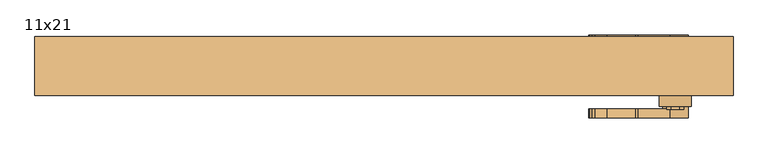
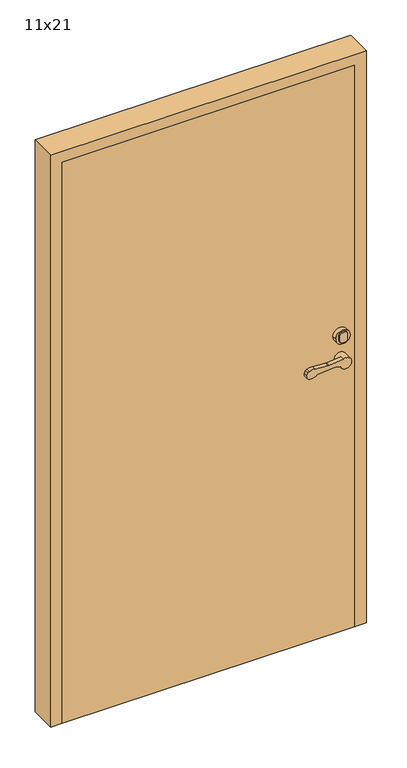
"""IFC4 building model written with IfcOpenShell, lengths in millimetres: door geometry, FPS Bangstad : 11x21."""

from ifc_helpers import new_model, si_unit, frame, origin, origin_with_axes, place, context, project, spatial, polyline, circle_curve, outline, extrude, faceted_brep, source, transform, mapped, element, save
from ifc_brep_helpers import plane_surface, cylinder_surface, revolved_surface, advanced_brep


def door_11x21_32893f3e(model_context):
    return source(origin(), model_context, "Body", "SolidModel", [
        advanced_brep(
        [(466.5814974, -154.973232, 997.7701387), (481.004483, -154.973232, 991.2729519), (519.0, -154.973232, 1000.0), (489.8891463, -154.973232, 1017.8042788), (441.3094903, -154.973232, 1012.9128632), (436.2405827, -154.973232, 1012.8329847), (391.5166845, -154.973232, 1015.9164674), (372.9379339, -154.973232, 1013.5335945), (368.125376, -154.973232, 1008.6149507), (364.4895652, -154.973232, 1000.5438812), (369.341903, -154.973232, 987.3918831), (398.6679779, -154.973232, 992.2785443), (461.4724333, -154.973232, 998.6022345), (441.3094903, -140.486616, 1012.9128632), (489.8891463, -140.486616, 1017.8042788), (479.0, -140.486616, 1000.0), (481.004483, -140.486616, 991.2729519), (466.5814974, -140.486616, 997.7701387), (461.4724333, -140.486616, 998.6022345), (398.6679779, -140.486616, 992.2785443), (369.341903, -140.486616, 987.3918831), (364.4895652, -140.486616, 1000.5438812), (368.125376, -140.486616, 1008.6149507), (372.9379339, -140.486616, 1013.5335945), (391.5166845, -140.486616, 1015.9164674), (436.2405827, -140.486616, 1012.8329847), (519.0, -119.973232, 1000.0), (479.0, -119.973232, 1000.0)],
        [
            (0, 1),
            (1, 2, circle_curve(frame((499.0, -154.973232, 1000.0), z_axis=(0.0, -1.0, 0.0), x_axis=(-1.0, 0.0, 0.0)), 20.0)),
            (2, 3, circle_curve(frame((499.0, -154.973232, 1000.0), z_axis=(0.0, -1.0, 0.0), x_axis=(-1.0, 0.0, 0.0)), 20.0)),
            (3, 4),
            (4, 5, circle_curve(frame((438.30403, -154.973232, 1042.761937), z_axis=(0.0, 1.0, 0.0), x_axis=(-0.9949691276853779, 0.0, -0.10018200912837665)), 30.0)),
            (5, 6),
            (6, 7, circle_curve(frame((385.8530466, -154.973232, 986.455931), z_axis=(0.0, -1.0, 0.0), x_axis=(-0.9949691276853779, 0.0, -0.10018200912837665)), 30.0)),
            (7, 8, circle_curve(frame((377.2429714, -154.973232, 1004.5077067), z_axis=(0.0, -1.0, 0.0), x_axis=(-0.9949691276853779, 0.0, -0.10018200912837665)), 10.0)),
            (8, 9),
            (9, 10, circle_curve(frame((373.6071607, -154.973232, 996.4366372), z_axis=(0.0, -1.0, 0.0), x_axis=(-0.9949691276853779, 0.0, -0.10018200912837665)), 10.0)),
            (10, 11, circle_curve(frame((380.4773313, -154.973232, 1011.0052772), z_axis=(0.0, -1.0, 0.0), x_axis=(-0.9949691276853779, 0.0, -0.10018200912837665)), 26.1072815)),
            (11, 12),
            (12, 0, circle_curve(frame((462.4742534, -154.973232, 988.6525432), z_axis=(0.0, 1.0, 0.0), x_axis=(-0.9949691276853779, 0.0, -0.10018200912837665)), 10.0)),
            (13, 14),
            (14, 15, circle_curve(frame((499.0, -140.486616, 1000.0), z_axis=(0.0, -1.0, 0.0), x_axis=(-1.0, 0.0, 0.0)), 20.0)),
            (15, 16, circle_curve(frame((499.0, -140.486616, 1000.0), z_axis=(0.0, -1.0, 0.0), x_axis=(-1.0, 0.0, 0.0)), 20.0)),
            (16, 17),
            (17, 18, circle_curve(frame((462.4742534, -140.486616, 988.6525432), z_axis=(0.0, -1.0, 0.0), x_axis=(-0.9949691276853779, 0.0, -0.10018200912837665)), 10.0)),
            (18, 19),
            (19, 20, circle_curve(frame((380.4773313, -140.486616, 1011.0052772), z_axis=(0.0, 1.0, 0.0), x_axis=(-0.9949691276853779, 0.0, -0.10018200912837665)), 26.1072815)),
            (20, 21, circle_curve(frame((373.6071607, -140.486616, 996.4366372), z_axis=(0.0, 1.0, 0.0), x_axis=(-0.9949691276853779, 0.0, -0.10018200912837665)), 10.0)),
            (21, 22),
            (22, 23, circle_curve(frame((377.2429714, -140.486616, 1004.5077067), z_axis=(0.0, 1.0, 0.0), x_axis=(-0.9949691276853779, 0.0, -0.10018200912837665)), 10.0)),
            (23, 24, circle_curve(frame((385.8530466, -140.486616, 986.455931), z_axis=(0.0, 1.0, 0.0), x_axis=(-0.9949691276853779, 0.0, -0.10018200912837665)), 30.0)),
            (24, 25),
            (25, 13, circle_curve(frame((438.30403, -140.486616, 1042.761937), z_axis=(0.0, -1.0, 0.0), x_axis=(-0.9949691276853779, 0.0, -0.10018200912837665)), 30.0)),
            (3, 14),
            (13, 4),
            (16, 1),
            (0, 17),
            (12, 18),
            (11, 19),
            (10, 20),
            (9, 21),
            (8, 22),
            (7, 23),
            (6, 24),
            (5, 25),
            (26, 27, circle_curve(frame((499.0, -119.973232, 1000.0), z_axis=(0.0, 1.0, 0.0), x_axis=(-1.0, 0.0, 0.0)), 20.0)),
            (27, 26, circle_curve(frame((499.0, -119.973232, 1000.0), z_axis=(0.0, 1.0, 0.0), x_axis=(-1.0, 0.0, 0.0)), 20.0)),
            (26, 2),
            (15, 27),
        ],
        [
            plane_surface(frame((490.3164257, -154.973232, 1017.847301), z_axis=(0.0, -1.0000000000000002, 0.0), x_axis=(0.9949691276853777, 0.0, 0.10018200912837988))),
            plane_surface(frame((490.3164257, -140.486616, 1017.847301), z_axis=(0.0, 1.0000000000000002, 0.0), x_axis=(-0.9949691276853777, 0.0, -0.10018200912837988))),
            plane_surface(frame((441.3094903, -154.973232, 1012.9128632), z_axis=(-0.10018200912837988, 0.0, 0.9949691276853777), x_axis=(0.0, 1.0, 0.0))),
            plane_surface(frame((499.5891035, -154.973232, 982.9010548), z_axis=(-0.41072439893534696, 0.0, -0.91175954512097), x_axis=(0.0, 1.0, 0.0))),
            revolved_surface(polyline([(452.5245621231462, -140.486616, 987.6507231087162), (452.5245621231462, -154.973232, 987.6507231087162)]), (462.4742534, -140.486616, 988.6525432), (0.0, 1.0, 0.0)),
            plane_surface(frame((461.4724333, -154.973232, 998.6022345), z_axis=(0.10018200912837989, 0.0, -0.9949691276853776), x_axis=(0.0, 1.0, 0.0))),
            cylinder_surface(frame((380.4773313, -140.486616, 1011.0052772), z_axis=(0.0, -1.0, 0.0), x_axis=(-0.9949691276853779, 0.0, -0.10018200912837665)), 26.1072815),
            cylinder_surface(frame((373.6071607, -140.486616, 996.4366372), z_axis=(0.0, -1.0, 0.0), x_axis=(-0.9949691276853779, 0.0, -0.10018200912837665)), 10.0),
            plane_surface(frame((364.4895652, -154.973232, 1000.5438812), z_axis=(-0.9117595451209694, 0.0, 0.41072439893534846), x_axis=(0.0, 1.0, 0.0))),
            cylinder_surface(frame((377.2429714, -140.486616, 1004.5077067), z_axis=(0.0, -1.0, 0.0), x_axis=(-0.9949691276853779, 0.0, -0.10018200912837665)), 10.0),
            cylinder_surface(frame((385.8530466, -140.486616, 986.455931), z_axis=(0.0, -1.0, 0.0), x_axis=(-0.9949691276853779, 0.0, -0.10018200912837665)), 30.0),
            plane_surface(frame((391.5166845, -154.973232, 1015.9164674), z_axis=(0.06878157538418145, 0.0, 0.9976317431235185), x_axis=(0.0, 1.0, 0.0))),
            revolved_surface(polyline([(408.4549561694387, -140.486616, 1039.7564767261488), (408.4549561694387, -154.973232, 1039.7564767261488)]), (438.30403, -140.486616, 1042.761937), (0.0, 1.0, 0.0)),
            plane_surface(frame((479.0, -119.973232, 1000.0), z_axis=(0.0, 1.0, 0.0), x_axis=(0.0, 0.0, -1.0))),
            cylinder_surface(frame((499.0, -119.973232, 1000.0), z_axis=(0.0, -1.0, 0.0), x_axis=(-1.0, 0.0, 0.0)), 20.0),
        ],
        [
            (0, [[1, 2, 3, 4, 5, 6, 7, 8, 9, 10, 11, 12, 13]]),
            (1, [[14, 15, 16, 17, 18, 19, 20, 21, 22, 23, 24, 25, 26]]),
            (2, [[-4, 27, -14, 28]]),
            (3, [[-17, 29, -1, 30]]),
            (4, [[31, -18, -30, -13]]),
            (5, [[32, -19, -31, -12]]),
            (6, [[33, -20, -32, -11]]),
            (7, [[34, -21, -33, -10]]),
            (8, [[35, -22, -34, -9]]),
            (9, [[36, -23, -35, -8]]),
            (10, [[37, -24, -36, -7]]),
            (11, [[38, -25, -37, -6]]),
            (12, [[-28, -26, -38, -5]]),
            (13, [[39, 40]]),
            (14, [[41, -2, -29, -16, 42, -39]]),
            (14, [[-42, -15, -27, -3, -41, -40]]),
        ],
    ),
        advanced_brep(
        [(524.0, -136.932999, 1085.0), (474.0, -136.932999, 1085.0), (511.797635, -136.932999, 1096.6951736), (511.797635, -136.932999, 1076.3309113), (505.3598612, -136.932999, 1068.4849283), (491.7234976, -136.932999, 1068.9331955), (485.7976351, -136.932999, 1076.6596406), (485.797635, -136.932999, 1096.448688), (491.7874865, -136.932999, 1104.1920273), (505.4238501, -136.932999, 1104.5281439), (524.0, -119.973232, 1085.0), (474.0, -119.973232, 1085.0), (505.4238501, -141.932999, 1104.5281439), (491.7874865, -141.932999, 1104.1920273), (485.797635, -141.932999, 1096.448688), (485.7976351, -141.932999, 1076.6596406), (491.7234976, -141.932999, 1068.9331955), (505.3598612, -141.932999, 1068.4849283), (511.797635, -141.932999, 1076.3309113), (511.797635, -141.932999, 1096.6951736)],
        [
            (0, 1, circle_curve(frame((499.0, -136.932999, 1085.0), z_axis=(0.0, -1.0, 0.0), x_axis=(-1.0, 0.0, 0.0)), 25.0)),
            (1, 0, circle_curve(frame((499.0, -136.932999, 1085.0), z_axis=(0.0, -1.0, 0.0), x_axis=(-1.0, 0.0, 0.0)), 25.0)),
            (2, 3),
            (3, 4, circle_curve(frame((503.797635, -136.932999, 1076.3309113), z_axis=(0.0, 1.0, 0.0), x_axis=(-1.0, 0.0, 0.0)), 8.0)),
            (4, 5, circle_curve(frame((499.5015131, -136.932999, 1097.9073646), z_axis=(0.0, 1.0, 0.0), x_axis=(-1.0, 0.0, 0.0)), 30.0)),
            (5, 6, circle_curve(frame((493.7976351, -136.932999, 1076.6596406), z_axis=(0.0, 1.0, 0.0), x_axis=(-1.0, 0.0, 0.0)), 8.0)),
            (6, 7),
            (7, 8, circle_curve(frame((493.797635, -136.932999, 1096.448688), z_axis=(0.0, 1.0, 0.0), x_axis=(-1.0, 0.0, 0.0)), 8.0)),
            (8, 9, circle_curve(frame((499.3255436, -136.932999, 1075.1545051), z_axis=(0.0, 1.0, 0.0), x_axis=(-1.0, 0.0, 0.0)), 30.0)),
            (9, 2, circle_curve(frame((503.797635, -136.932999, 1096.6951736), z_axis=(0.0, 1.0, 0.0), x_axis=(-1.0, 0.0, 0.0)), 8.0)),
            (10, 11, circle_curve(frame((499.0, -119.973232, 1085.0), z_axis=(0.0, 1.0, 0.0), x_axis=(-1.0, 0.0, 0.0)), 25.0)),
            (11, 10, circle_curve(frame((499.0, -119.973232, 1085.0), z_axis=(0.0, 1.0, 0.0), x_axis=(-1.0, 0.0, 0.0)), 25.0)),
            (1, 11),
            (10, 0),
            (12, 13, circle_curve(frame((499.3255436, -141.932999, 1075.1545051), z_axis=(0.0, -1.0, 0.0), x_axis=(-1.0, 0.0, 0.0)), 30.0)),
            (13, 14, circle_curve(frame((493.797635, -141.932999, 1096.448688), z_axis=(0.0, -1.0, 0.0), x_axis=(-1.0, 0.0, 0.0)), 8.0)),
            (14, 15),
            (15, 16, circle_curve(frame((493.7976351, -141.932999, 1076.6596406), z_axis=(0.0, -1.0, 0.0), x_axis=(-1.0, 0.0, 0.0)), 8.0)),
            (16, 17, circle_curve(frame((499.5015131, -141.932999, 1097.9073646), z_axis=(0.0, -1.0, 0.0), x_axis=(-1.0, 0.0, 0.0)), 30.0)),
            (17, 18, circle_curve(frame((503.797635, -141.932999, 1076.3309113), z_axis=(0.0, -1.0, 0.0), x_axis=(-1.0, 0.0, 0.0)), 8.0)),
            (18, 19),
            (19, 12, circle_curve(frame((503.797635, -141.932999, 1096.6951736), z_axis=(0.0, -1.0, 0.0), x_axis=(-1.0, 0.0, 0.0)), 8.0)),
            (19, 2),
            (9, 12),
            (18, 3),
            (17, 4),
            (16, 5),
            (15, 6),
            (14, 7),
            (13, 8),
        ],
        [
            plane_surface(frame((474.0, -136.932999, 1085.0), z_axis=(0.0, -1.0, 0.0), x_axis=(0.0, 0.0, 1.0))),
            plane_surface(frame((474.0, -119.973232, 1085.0), z_axis=(0.0, 1.0, 0.0), x_axis=(0.0, 0.0, -1.0))),
            cylinder_surface(frame((499.0, -119.973232, 1085.0), z_axis=(0.0, -1.0, 0.0), x_axis=(-1.0, 0.0, 0.0)), 25.0),
            plane_surface(frame((495.797635, -141.932999, 1096.6951736), z_axis=(0.0, -1.0, 0.0), x_axis=(0.0, 0.0, 1.0))),
            cylinder_surface(frame((503.797635, -136.932999, 1096.6951736), z_axis=(0.0, -1.0, 0.0), x_axis=(-1.0, 0.0, 0.0)), 8.0),
            plane_surface(frame((511.797635, -141.932999, 1096.6951736), z_axis=(1.0, 0.0, 0.0), x_axis=(0.0, 1.0, 0.0))),
            cylinder_surface(frame((503.797635, -136.932999, 1076.3309113), z_axis=(0.0, -1.0, 0.0), x_axis=(-1.0, 0.0, 0.0)), 8.0),
            cylinder_surface(frame((499.5015131, -136.932999, 1097.9073646), z_axis=(0.0, -1.0, 0.0), x_axis=(-1.0, 0.0, 0.0)), 30.0),
            cylinder_surface(frame((493.7976351, -136.932999, 1076.6596406), z_axis=(0.0, -1.0, 0.0), x_axis=(-1.0, 0.0, 0.0)), 8.0),
            plane_surface(frame((485.7976351, -141.932999, 1076.6596406), z_axis=(-1.0, 0.0, -2.725747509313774e-09), x_axis=(0.0, 1.0, 0.0))),
            cylinder_surface(frame((493.797635, -136.932999, 1096.448688), z_axis=(0.0, -1.0, 0.0), x_axis=(-1.0, 0.0, 0.0)), 8.0),
            cylinder_surface(frame((499.3255436, -136.932999, 1075.1545051), z_axis=(0.0, -1.0, 0.0), x_axis=(-1.0, 0.0, 0.0)), 30.0),
        ],
        [
            (0, [[1, 2], [3, 4, 5, 6, 7, 8, 9, 10]]),
            (1, [[11, 12]]),
            (2, [[13, -11, 14, -2]]),
            (2, [[-14, -12, -13, -1]]),
            (3, [[15, 16, 17, 18, 19, 20, 21, 22]]),
            (4, [[23, -10, 24, -22]]),
            (5, [[25, -3, -23, -21]]),
            (6, [[26, -4, -25, -20]]),
            (7, [[27, -5, -26, -19]]),
            (8, [[28, -6, -27, -18]]),
            (9, [[29, -7, -28, -17]]),
            (10, [[30, -8, -29, -16]]),
            (11, [[-24, -9, -30, -15]]),
        ],
    ),
        advanced_brep(
        [(466.5814974, -25.0, 997.7701387), (461.4724333, -25.0, 998.6022345), (398.6679779, -25.0, 992.2785443), (369.341903, -25.0, 987.3918831), (364.4895652, -25.0, 1000.5438812), (368.125376, -25.0, 1008.6149507), (372.9379339, -25.0, 1013.5335945), (391.5166845, -25.0, 1015.9164674), (436.2405827, -25.0, 1012.8329847), (441.3094903, -25.0, 1012.9128632), (489.8891463, -25.0, 1017.8042788), (519.0, -25.0, 1000.0), (481.004483, -25.0, 991.2729519), (441.3094903, -39.486616, 1012.9128632), (436.2405827, -39.486616, 1012.8329847), (391.5166845, -39.486616, 1015.9164674), (372.9379339, -39.486616, 1013.5335945), (368.125376, -39.486616, 1008.6149507), (364.4895652, -39.486616, 1000.5438812), (369.341903, -39.486616, 987.3918831), (398.6679779, -39.486616, 992.2785443), (461.4724333, -39.486616, 998.6022345), (466.5814974, -39.486616, 997.7701387), (481.004483, -39.486616, 991.2729519), (479.0, -39.486616, 1000.0), (489.8891463, -39.486616, 1017.8042788), (519.0, -60.0, 1000.0), (479.0, -60.0, 1000.0)],
        [
            (0, 1, circle_curve(frame((462.4742534, -25.0, 988.6525432), z_axis=(0.0, -1.0, 0.0), x_axis=(-0.9949691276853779, 0.0, -0.10018200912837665)), 10.0)),
            (1, 2),
            (2, 3, circle_curve(frame((380.4773313, -25.0, 1011.0052772), z_axis=(0.0, 1.0, 0.0), x_axis=(-0.9949691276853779, 0.0, -0.10018200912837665)), 26.1072815)),
            (3, 4, circle_curve(frame((373.6071607, -25.0, 996.4366372), z_axis=(0.0, 1.0, 0.0), x_axis=(-0.9949691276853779, 0.0, -0.10018200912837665)), 10.0)),
            (4, 5),
            (5, 6, circle_curve(frame((377.2429714, -25.0, 1004.5077067), z_axis=(0.0, 1.0, 0.0), x_axis=(-0.9949691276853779, 0.0, -0.10018200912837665)), 10.0)),
            (6, 7, circle_curve(frame((385.8530466, -25.0, 986.455931), z_axis=(0.0, 1.0, 0.0), x_axis=(-0.9949691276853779, 0.0, -0.10018200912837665)), 30.0)),
            (7, 8),
            (8, 9, circle_curve(frame((438.30403, -25.0, 1042.761937), z_axis=(0.0, -1.0, 0.0), x_axis=(-0.9949691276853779, 0.0, -0.10018200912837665)), 30.0)),
            (9, 10),
            (10, 11, circle_curve(frame((499.0, -25.0, 1000.0), z_axis=(0.0, 1.0, 0.0), x_axis=(-1.0, 0.0, 0.0)), 20.0)),
            (11, 12, circle_curve(frame((499.0, -25.0, 1000.0), z_axis=(0.0, 1.0, 0.0), x_axis=(-1.0, 0.0, 0.0)), 20.0)),
            (12, 0),
            (13, 14, circle_curve(frame((438.30403, -39.486616, 1042.761937), z_axis=(0.0, 1.0, 0.0), x_axis=(-0.9949691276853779, 0.0, -0.10018200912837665)), 30.0)),
            (14, 15),
            (15, 16, circle_curve(frame((385.8530466, -39.486616, 986.455931), z_axis=(0.0, -1.0, 0.0), x_axis=(-0.9949691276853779, 0.0, -0.10018200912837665)), 30.0)),
            (16, 17, circle_curve(frame((377.2429714, -39.486616, 1004.5077067), z_axis=(0.0, -1.0, 0.0), x_axis=(-0.9949691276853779, 0.0, -0.10018200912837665)), 10.0)),
            (17, 18),
            (18, 19, circle_curve(frame((373.6071607, -39.486616, 996.4366372), z_axis=(0.0, -1.0, 0.0), x_axis=(-0.9949691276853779, 0.0, -0.10018200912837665)), 10.0)),
            (19, 20, circle_curve(frame((380.4773313, -39.486616, 1011.0052772), z_axis=(0.0, -1.0, 0.0), x_axis=(-0.9949691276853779, 0.0, -0.10018200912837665)), 26.1072815)),
            (20, 21),
            (21, 22, circle_curve(frame((462.4742534, -39.486616, 988.6525432), z_axis=(0.0, 1.0, 0.0), x_axis=(-0.9949691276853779, 0.0, -0.10018200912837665)), 10.0)),
            (22, 23),
            (23, 24, circle_curve(frame((499.0, -39.486616, 1000.0), z_axis=(0.0, 1.0, 0.0), x_axis=(-1.0, 0.0, 0.0)), 20.0)),
            (24, 25, circle_curve(frame((499.0, -39.486616, 1000.0), z_axis=(0.0, 1.0, 0.0), x_axis=(-1.0, 0.0, 0.0)), 20.0)),
            (25, 13),
            (9, 13),
            (25, 10),
            (22, 0),
            (12, 23),
            (21, 1),
            (20, 2),
            (19, 3),
            (18, 4),
            (17, 5),
            (16, 6),
            (15, 7),
            (14, 8),
            (26, 27, circle_curve(frame((499.0, -60.0, 1000.0), z_axis=(0.0, -1.0, 0.0), x_axis=(-1.0, 0.0, 0.0)), 20.0)),
            (27, 26, circle_curve(frame((499.0, -60.0, 1000.0), z_axis=(0.0, -1.0, 0.0), x_axis=(-1.0, 0.0, 0.0)), 20.0)),
            (27, 24),
            (11, 26),
        ],
        [
            plane_surface(frame((490.3164257, -25.0, 1017.847301), z_axis=(0.0, 1.0000000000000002, 0.0), x_axis=(0.9949691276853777, 0.0, 0.10018200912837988))),
            plane_surface(frame((490.3164257, -39.486616, 1017.847301), z_axis=(0.0, -1.0000000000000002, 0.0), x_axis=(-0.9949691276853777, 0.0, -0.10018200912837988))),
            plane_surface(frame((441.3094903, -25.0, 1012.9128632), z_axis=(-0.10018200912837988, 0.0, 0.9949691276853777), x_axis=(0.0, -1.0, 0.0))),
            plane_surface(frame((499.5891035, -25.0, 982.9010548), z_axis=(-0.41072439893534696, 0.0, -0.91175954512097), x_axis=(0.0, -1.0, 0.0))),
            revolved_surface(polyline([(452.5245621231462, -39.486616, 987.6507231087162), (452.5245621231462, -25.0, 987.6507231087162)]), (462.4742534, -39.486616, 988.6525432), (0.0, -1.0, 0.0)),
            plane_surface(frame((461.4724333, -25.0, 998.6022345), z_axis=(0.10018200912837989, 0.0, -0.9949691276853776), x_axis=(0.0, -1.0, 0.0))),
            cylinder_surface(frame((380.4773313, -39.486616, 1011.0052772), z_axis=(0.0, 1.0, 0.0), x_axis=(-0.9949691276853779, 0.0, -0.10018200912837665)), 26.1072815),
            cylinder_surface(frame((373.6071607, -39.486616, 996.4366372), z_axis=(0.0, 1.0, 0.0), x_axis=(-0.9949691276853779, 0.0, -0.10018200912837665)), 10.0),
            plane_surface(frame((364.4895652, -25.0, 1000.5438812), z_axis=(-0.9117595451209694, 0.0, 0.41072439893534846), x_axis=(0.0, -1.0, 0.0))),
            cylinder_surface(frame((377.2429714, -39.486616, 1004.5077067), z_axis=(0.0, 1.0, 0.0), x_axis=(-0.9949691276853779, 0.0, -0.10018200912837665)), 10.0),
            cylinder_surface(frame((385.8530466, -39.486616, 986.455931), z_axis=(0.0, 1.0, 0.0), x_axis=(-0.9949691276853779, 0.0, -0.10018200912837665)), 30.0),
            plane_surface(frame((391.5166845, -25.0, 1015.9164674), z_axis=(0.06878157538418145, 0.0, 0.9976317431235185), x_axis=(0.0, -1.0, 0.0))),
            revolved_surface(polyline([(408.4549561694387, -39.486616, 1039.7564767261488), (408.4549561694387, -25.0, 1039.7564767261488)]), (438.30403, -39.486616, 1042.761937), (0.0, -1.0, 0.0)),
            plane_surface(frame((479.0, -60.0, 1000.0), z_axis=(0.0, -1.0, 0.0), x_axis=(0.0, 0.0, -1.0))),
            cylinder_surface(frame((499.0, -60.0, 1000.0), z_axis=(0.0, 1.0, 0.0), x_axis=(-1.0, 0.0, 0.0)), 20.0),
        ],
        [
            (0, [[1, 2, 3, 4, 5, 6, 7, 8, 9, 10, 11, 12, 13]]),
            (1, [[14, 15, 16, 17, 18, 19, 20, 21, 22, 23, 24, 25, 26]]),
            (2, [[27, -26, 28, -10]]),
            (3, [[29, -13, 30, -23]]),
            (4, [[-1, -29, -22, 31]]),
            (5, [[-2, -31, -21, 32]]),
            (6, [[-3, -32, -20, 33]]),
            (7, [[-4, -33, -19, 34]]),
            (8, [[-5, -34, -18, 35]]),
            (9, [[-6, -35, -17, 36]]),
            (10, [[-7, -36, -16, 37]]),
            (11, [[-8, -37, -15, 38]]),
            (12, [[-9, -38, -14, -27]]),
            (13, [[39, 40]]),
            (14, [[-40, 41, -24, -30, -12, 42]]),
            (14, [[-39, -42, -11, -28, -25, -41]]),
        ],
    ),
        advanced_brep(
        [(524.0, -43.040233, 1085.0), (474.0, -43.040233, 1085.0), (511.797635, -43.040233, 1096.6951736), (505.4238501, -43.040233, 1104.5281439), (491.7874865, -43.040233, 1104.1920273), (485.797635, -43.040233, 1096.448688), (485.7976351, -43.040233, 1076.6596406), (491.7234976, -43.040233, 1068.9331955), (505.3598612, -43.040233, 1068.4849283), (511.797635, -43.040233, 1076.3309113), (524.0, -60.0, 1085.0), (474.0, -60.0, 1085.0), (505.4238501, -38.040233, 1104.5281439), (511.797635, -38.040233, 1096.6951736), (511.797635, -38.040233, 1076.3309113), (505.3598612, -38.040233, 1068.4849283), (491.7234976, -38.040233, 1068.9331955), (485.7976351, -38.040233, 1076.6596406), (485.797635, -38.040233, 1096.448688), (491.7874865, -38.040233, 1104.1920273)],
        [
            (0, 1, circle_curve(frame((499.0, -43.040233, 1085.0), z_axis=(0.0, 1.0, 0.0), x_axis=(-1.0, 0.0, 0.0)), 25.0)),
            (1, 0, circle_curve(frame((499.0, -43.040233, 1085.0), z_axis=(0.0, 1.0, 0.0), x_axis=(-1.0, 0.0, 0.0)), 25.0)),
            (2, 3, circle_curve(frame((503.797635, -43.040233, 1096.6951736), z_axis=(0.0, -1.0, 0.0), x_axis=(-1.0, 0.0, 0.0)), 8.0)),
            (3, 4, circle_curve(frame((499.3255436, -43.040233, 1075.1545051), z_axis=(0.0, -1.0, 0.0), x_axis=(-1.0, 0.0, 0.0)), 30.0)),
            (4, 5, circle_curve(frame((493.797635, -43.040233, 1096.448688), z_axis=(0.0, -1.0, 0.0), x_axis=(-1.0, 0.0, 0.0)), 8.0)),
            (5, 6),
            (6, 7, circle_curve(frame((493.7976351, -43.040233, 1076.6596406), z_axis=(0.0, -1.0, 0.0), x_axis=(-1.0, 0.0, 0.0)), 8.0)),
            (7, 8, circle_curve(frame((499.5015131, -43.040233, 1097.9073646), z_axis=(0.0, -1.0, 0.0), x_axis=(-1.0, 0.0, 0.0)), 30.0)),
            (8, 9, circle_curve(frame((503.797635, -43.040233, 1076.3309113), z_axis=(0.0, -1.0, 0.0), x_axis=(-1.0, 0.0, 0.0)), 8.0)),
            (9, 2),
            (10, 11, circle_curve(frame((499.0, -60.0, 1085.0), z_axis=(0.0, -1.0, 0.0), x_axis=(-1.0, 0.0, 0.0)), 25.0)),
            (11, 10, circle_curve(frame((499.0, -60.0, 1085.0), z_axis=(0.0, -1.0, 0.0), x_axis=(-1.0, 0.0, 0.0)), 25.0)),
            (0, 10),
            (11, 1),
            (12, 13, circle_curve(frame((503.797635, -38.040233, 1096.6951736), z_axis=(0.0, 1.0, 0.0), x_axis=(-1.0, 0.0, 0.0)), 8.0)),
            (13, 14),
            (14, 15, circle_curve(frame((503.797635, -38.040233, 1076.3309113), z_axis=(0.0, 1.0, 0.0), x_axis=(-1.0, 0.0, 0.0)), 8.0)),
            (15, 16, circle_curve(frame((499.5015131, -38.040233, 1097.9073646), z_axis=(0.0, 1.0, 0.0), x_axis=(-1.0, 0.0, 0.0)), 30.0)),
            (16, 17, circle_curve(frame((493.7976351, -38.040233, 1076.6596406), z_axis=(0.0, 1.0, 0.0), x_axis=(-1.0, 0.0, 0.0)), 8.0)),
            (17, 18),
            (18, 19, circle_curve(frame((493.797635, -38.040233, 1096.448688), z_axis=(0.0, 1.0, 0.0), x_axis=(-1.0, 0.0, 0.0)), 8.0)),
            (19, 12, circle_curve(frame((499.3255436, -38.040233, 1075.1545051), z_axis=(0.0, 1.0, 0.0), x_axis=(-1.0, 0.0, 0.0)), 30.0)),
            (12, 3),
            (2, 13),
            (9, 14),
            (8, 15),
            (7, 16),
            (6, 17),
            (5, 18),
            (4, 19),
        ],
        [
            plane_surface(frame((474.0, -43.040233, 1085.0), z_axis=(0.0, 1.0, 0.0), x_axis=(0.0, 0.0, 1.0))),
            plane_surface(frame((474.0, -60.0, 1085.0), z_axis=(0.0, -1.0, 0.0), x_axis=(0.0, 0.0, -1.0))),
            cylinder_surface(frame((499.0, -60.0, 1085.0), z_axis=(0.0, 1.0, 0.0), x_axis=(-1.0, 0.0, 0.0)), 25.0),
            plane_surface(frame((495.797635, -38.040233, 1096.6951736), z_axis=(0.0, 1.0, 0.0), x_axis=(0.0, 0.0, 1.0))),
            cylinder_surface(frame((503.797635, -43.040233, 1096.6951736), z_axis=(0.0, 1.0, 0.0), x_axis=(-1.0, 0.0, 0.0)), 8.0),
            plane_surface(frame((511.797635, -38.040233, 1096.6951736), z_axis=(1.0, 0.0, 0.0), x_axis=(0.0, -1.0, 0.0))),
            cylinder_surface(frame((503.797635, -43.040233, 1076.3309113), z_axis=(0.0, 1.0, 0.0), x_axis=(-1.0, 0.0, 0.0)), 8.0),
            cylinder_surface(frame((499.5015131, -43.040233, 1097.9073646), z_axis=(0.0, 1.0, 0.0), x_axis=(-1.0, 0.0, 0.0)), 30.0),
            cylinder_surface(frame((493.7976351, -43.040233, 1076.6596406), z_axis=(0.0, 1.0, 0.0), x_axis=(-1.0, 0.0, 0.0)), 8.0),
            plane_surface(frame((485.7976351, -38.040233, 1076.6596406), z_axis=(-1.0, 0.0, -2.725747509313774e-09), x_axis=(0.0, -1.0, 0.0))),
            cylinder_surface(frame((493.797635, -43.040233, 1096.448688), z_axis=(0.0, 1.0, 0.0), x_axis=(-1.0, 0.0, 0.0)), 8.0),
            cylinder_surface(frame((499.3255436, -43.040233, 1075.1545051), z_axis=(0.0, 1.0, 0.0), x_axis=(-1.0, 0.0, 0.0)), 30.0),
        ],
        [
            (0, [[1, 2], [3, 4, 5, 6, 7, 8, 9, 10]]),
            (1, [[11, 12]]),
            (2, [[-1, 13, -12, 14]]),
            (2, [[-2, -14, -11, -13]]),
            (3, [[15, 16, 17, 18, 19, 20, 21, 22]]),
            (4, [[-15, 23, -3, 24]]),
            (5, [[-16, -24, -10, 25]]),
            (6, [[-17, -25, -9, 26]]),
            (7, [[-18, -26, -8, 27]]),
            (8, [[-19, -27, -7, 28]]),
            (9, [[-20, -28, -6, 29]]),
            (10, [[-21, -29, -5, 30]]),
            (11, [[-22, -30, -4, -23]]),
        ],
    ),
        extrude(outline(polyline([(-461.0, -120.0), (-461.0, -60.0), (549.0, -60.0), (549.0, -120.0), (-461.0, -120.0)])), origin_with_axes(), (0.0, 0.0, 1.0), 2048.0),
        faceted_brep([(589.0, -28.0, 0.0), (589.0, -120.0, 0.0), (549.0, -120.0, 0.0), (549.0, -60.0, 0.0), (534.0, -60.0, 0.0), (534.0, -28.0, 0.0), (534.0, -28.0, 2033.0), (-446.0, -28.0, 2033.0), (-446.0, -28.0, 0.0), (-501.0, -28.0, 0.0), (-501.0, -28.0, 2088.0), (589.0, -28.0, 2088.0), (534.0, -60.0, 2033.0), (549.0, -60.0, 2048.0), (-461.0, -60.0, 2048.0), (-461.0, -60.0, 0.0), (-446.0, -60.0, 0.0), (-446.0, -60.0, 2033.0), (549.0, -120.0, 2048.0), (589.0, -120.0, 2088.0), (-501.0, -120.0, 2088.0), (-501.0, -120.0, 0.0), (-461.0, -120.0, 0.0), (-461.0, -120.0, 2048.0)], [[[0, 1, 2, 3, 4, 5]], [[5, 6, 7, 8, 9, 10, 11, 0]], [[4, 12, 6, 5]], [[3, 13, 14, 15, 16, 17, 12, 4]], [[2, 18, 13, 3]], [[1, 19, 20, 21, 22, 23, 18, 2]], [[0, 11, 19, 1]], [[10, 9, 21, 20]], [[9, 8, 16, 15, 22, 21]], [[17, 16, 8, 7]], [[23, 22, 15, 14]], [[12, 17, 7, 6]], [[18, 23, 14, 13]], [[11, 10, 20, 19]]]),
    ])


if __name__ == "__main__":
    model = new_model("IFC4")
    model_context = context("Model", 3, world=origin())
    ifc_project = project(units=[si_unit("LENGTHUNIT", "METRE", prefix="MILLI")], contexts=[model_context])
    site = spatial("IfcSite", under=ifc_project)
    building = spatial("IfcBuilding", under=site)
    placement = place(None, origin())
    door_11x21_shape = door_11x21_32893f3e(model_context)
    element("IfcDoor", 1, ObjectType="FPS Bangstad : 11x21", at=placement, inside=building, context=model_context, shape_type="MappedRepresentation", body=[
        mapped(door_11x21_shape, transform((0.0, 0.0, 0.0), x_axis=(1.0, 0.0, 0.0), y_axis=(0.0, 1.0, 0.0), z_axis=(0.0, 0.0, 1.0))),
    ])
    save(model, "model.ifc")
